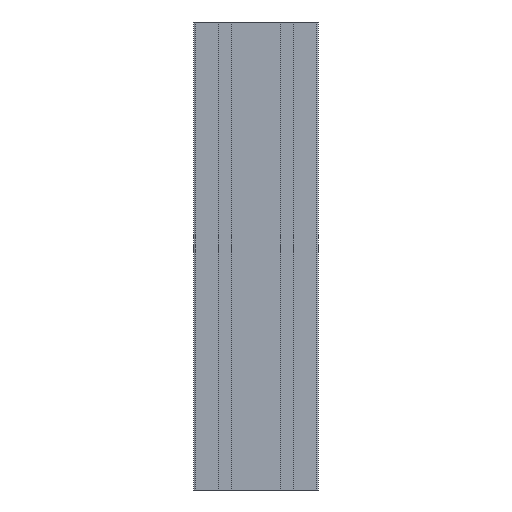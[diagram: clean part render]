
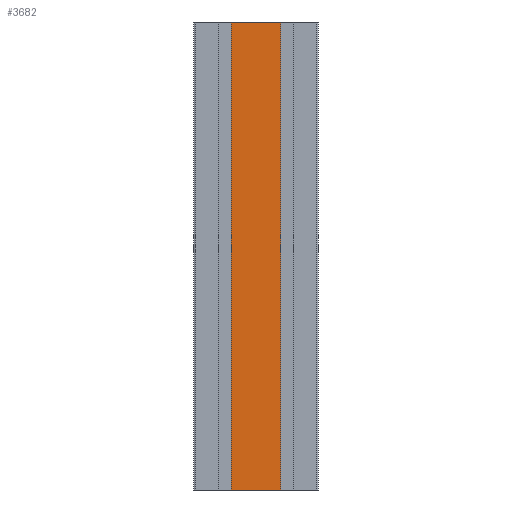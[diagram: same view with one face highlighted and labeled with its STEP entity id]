
A CAD part, front view. The second image highlights one B-rep face of the part: STEP entity #3682.
In plain terms, the highlighted planar face has unit normal (0, -1, 0).
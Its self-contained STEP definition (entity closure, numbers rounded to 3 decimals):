
#53 = DIRECTION ( 'NONE',  ( 1., 0., 0. ) ) ;
#65 = LINE ( 'NONE', #3419, #2166 ) ;
#78 = LINE ( 'NONE', #3429, #3608 ) ;
#143 = DIRECTION ( 'NONE',  ( 0., 0., -1. ) ) ;
#304 = CARTESIAN_POINT ( 'NONE',  ( -15.8, -20., 150. ) ) ;
#456 = CARTESIAN_POINT ( 'NONE',  ( -15.8, -20., 150. ) ) ;
#534 = CARTESIAN_POINT ( 'NONE',  ( 15.8, -20., 150. ) ) ;
#569 = CARTESIAN_POINT ( 'NONE',  ( 15.8, -20., 150. ) ) ;
#683 = VERTEX_POINT ( 'NONE', #3016 ) ;
#714 = PLANE ( 'NONE',  #972 ) ;
#819 = EDGE_CURVE ( 'NONE', #3296, #683, #65, .T. ) ;
#843 = LINE ( 'NONE', #456, #941 ) ;
#892 = CARTESIAN_POINT ( 'NONE',  ( -15.8, -20., 150. ) ) ;
#926 = LINE ( 'NONE', #534, #1228 ) ;
#934 = ORIENTED_EDGE ( 'NONE', *, *, #3105, .F. ) ;
#941 = VECTOR ( 'NONE', #53, 1000. ) ;
#955 = VERTEX_POINT ( 'NONE', #892 ) ;
#972 = AXIS2_PLACEMENT_3D ( 'NONE', #304, #3641, #3280 ) ;
#1228 = VECTOR ( 'NONE', #143, 1000. ) ;
#2166 = VECTOR ( 'NONE', #3037, 1000. ) ;
#2220 = FACE_OUTER_BOUND ( 'NONE', #2790, .T. ) ;
#2349 = CARTESIAN_POINT ( 'NONE',  ( -15.8, -20., -150. ) ) ;
#2389 = ORIENTED_EDGE ( 'NONE', *, *, #819, .T. ) ;
#2398 = VERTEX_POINT ( 'NONE', #569 ) ;
#2790 = EDGE_LOOP ( 'NONE', ( #2389, #934, #3657, #2895 ) ) ;
#2895 = ORIENTED_EDGE ( 'NONE', *, *, #3505, .T. ) ;
#3016 = CARTESIAN_POINT ( 'NONE',  ( 15.8, -20., -150. ) ) ;
#3037 = DIRECTION ( 'NONE',  ( 1., 0., 0. ) ) ;
#3051 = DIRECTION ( 'NONE',  ( 0., 0., -1. ) ) ;
#3105 = EDGE_CURVE ( 'NONE', #2398, #683, #926, .T. ) ;
#3280 = DIRECTION ( 'NONE',  ( 0., 0., 1. ) ) ;
#3296 = VERTEX_POINT ( 'NONE', #2349 ) ;
#3406 = EDGE_CURVE ( 'NONE', #955, #2398, #843, .T. ) ;
#3419 = CARTESIAN_POINT ( 'NONE',  ( -15.8, -20., -150. ) ) ;
#3429 = CARTESIAN_POINT ( 'NONE',  ( -15.8, -20., 150. ) ) ;
#3505 = EDGE_CURVE ( 'NONE', #955, #3296, #78, .T. ) ;
#3608 = VECTOR ( 'NONE', #3051, 1000. ) ;
#3641 = DIRECTION ( 'NONE',  ( 0., 1., 0. ) ) ;
#3657 = ORIENTED_EDGE ( 'NONE', *, *, #3406, .F. ) ;
#3682 = ADVANCED_FACE ( 'NONE', ( #2220 ), #714, .F. ) ;
